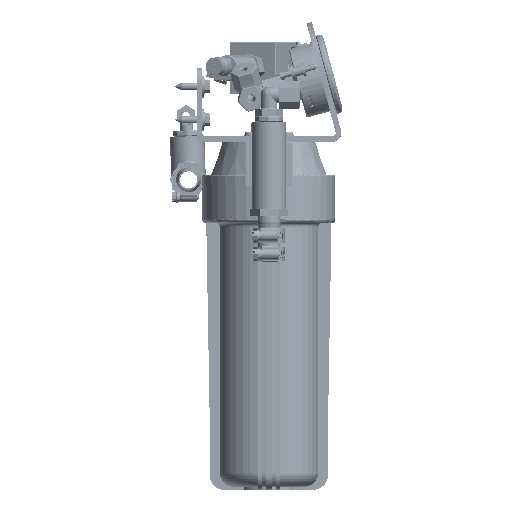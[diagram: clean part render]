
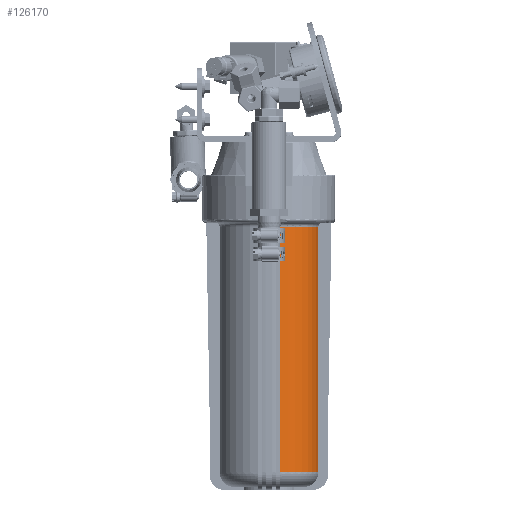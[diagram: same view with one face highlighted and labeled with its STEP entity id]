
A CAD part, top view. The second image highlights one B-rep face of the part: STEP entity #126170.
In plain terms, the highlighted cylindrical face has radius 43.561 mm (diameter 87.122 mm), a partial arc.
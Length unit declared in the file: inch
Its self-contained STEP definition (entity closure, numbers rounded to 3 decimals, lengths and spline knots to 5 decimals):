
#16235=FACE_OUTER_BOUND($,#23918,.T.);
#23918=EDGE_LOOP($,(#100027,#100028,#100029,#100030));
#32168=LINE($,#251406,#41034);
#32169=LINE($,#251409,#41035);
#41034=VECTOR($,#153841,8.322);
#41035=VECTOR($,#153844,8.322);
#46886=CIRCLE($,#134453,1.715);
#46887=CIRCLE($,#134455,1.715);
#55704=VERTEX_POINT($,#251365);
#55705=VERTEX_POINT($,#251384);
#55706=VERTEX_POINT($,#251405);
#55707=VERTEX_POINT($,#251407);
#71259=EDGE_CURVE($,#55704,#55705,#46886,.T.);
#71261=EDGE_CURVE($,#55706,#55704,#32168,.T.);
#71262=EDGE_CURVE($,#55706,#55707,#46887,.F.);
#71263=EDGE_CURVE($,#55705,#55707,#32169,.F.);
#100027=ORIENTED_EDGE($,*,*,#71261,.F.);
#100028=ORIENTED_EDGE($,*,*,#71262,.T.);
#100029=ORIENTED_EDGE($,*,*,#71263,.F.);
#100030=ORIENTED_EDGE($,*,*,#71259,.F.);
#114976=CYLINDRICAL_SURFACE($,#134454,1.715);
#126170=ADVANCED_FACE($,(#16235),#114976,.T.);
#134453=AXIS2_PLACEMENT_3D($,#251385,#153837,#153838);
#134454=AXIS2_PLACEMENT_3D($,#251404,#153839,#153840);
#134455=AXIS2_PLACEMENT_3D($,#251408,#153842,#153843);
#153837=DIRECTION('center_axis',(0.,-1.,0.));
#153838=DIRECTION('ref_axis',(0.,0.,
-1.));
#153839=DIRECTION('center_axis',(0.,-1.,0.));
#153840=DIRECTION('ref_axis',(0.,0.,
-1.));
#153841=DIRECTION($,(0.,-1.,0.));
#153842=DIRECTION('center_axis',(0.,1.,0.));
#153843=DIRECTION('ref_axis',(0.,0.,
1.));
#153844=DIRECTION($,(0.,-1.,0.));
#251365=CARTESIAN_POINT('',(3.26555,-11.16463,5.91688));
#251384=CARTESIAN_POINT('',(1.96094,-11.16463,7.22149));
#251385=CARTESIAN_POINT('Origin',(1.59094,-11.16463,5.54688));
#251404=CARTESIAN_POINT('Origin',(1.59094,-12.29523,5.54688));
#251405=CARTESIAN_POINT('',(3.26555,-2.84263,5.91688));
#251406=CARTESIAN_POINT($,(3.26555,-2.84263,5.91688));
#251407=CARTESIAN_POINT('',(1.96094,-2.84263,7.22149));
#251408=CARTESIAN_POINT('Origin',(1.59094,-2.84263,5.54688));
#251409=CARTESIAN_POINT($,(1.96094,-2.84263,7.22149));
